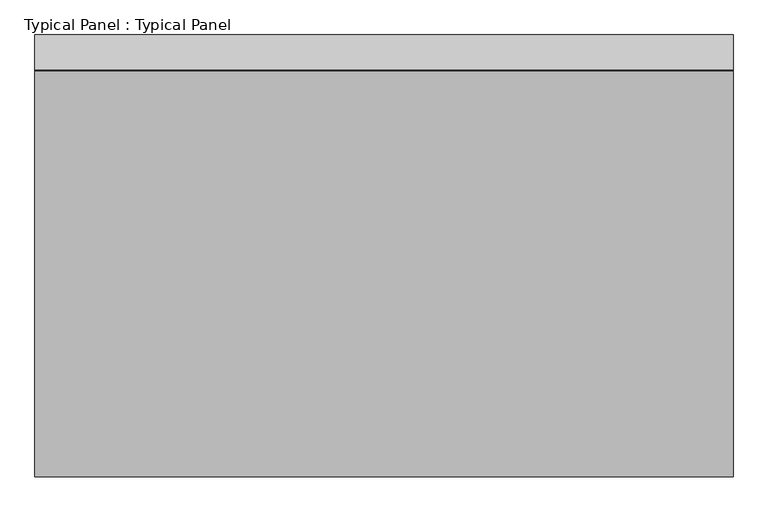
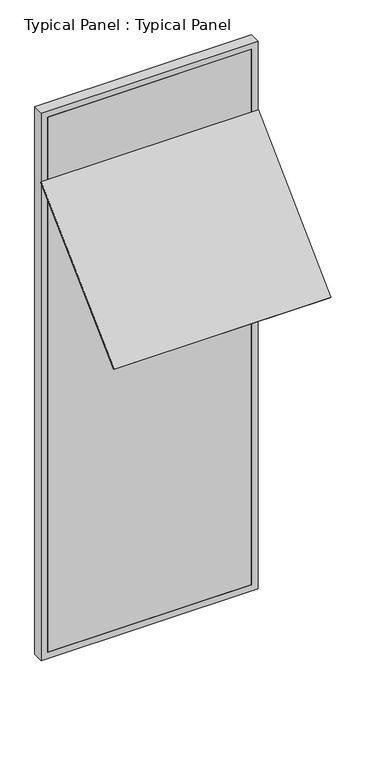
"""IFC4 building model written with IfcOpenShell, lengths in millimetres: plate geometry, Typical Panel : Typical Panel."""

from ifc_helpers import new_model, si_unit, frame, origin, place, context, project, spatial, polyline, outline, extrude, source, transform, mapped, element, save


def typical_panel_typical_panel_39513247(model_context):
    return source(origin(), model_context, "Body", "SweptSolid", [
        extrude(outline(polyline([(0.0, -1210.0), (0.0, 0.0), (1500.0, 0.0), (1500.0, -1210.0), (0.0, -1210.0)])), frame((750.0, -868.4545747, 2652.2699737), z_axis=(0.0, -0.6946583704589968, 0.7193398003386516), x_axis=(-1.0, 0.0, 0.0)), (0.0, 0.0, 1.0), 10.0),
        extrude(outline(polyline([(0.0, -750.0), (0.0, 750.0), (4000.0, 750.0), (4000.0, -750.0), (0.0, -750.0)]), holes=[polyline([(45.0, 705.0), (45.0, -705.0), (3955.0, -705.0), (3955.0, 705.0), (45.0, 705.0)])]), frame((0.0, -1.5797986, 0.0), z_axis=(0.0, 1.0, 0.0), x_axis=(0.0, 0.0, 1.0)), (0.0, 0.0, 1.0), 75.0),
        extrude(outline(polyline([(705.0, -1.5797986), (-705.0, -1.5797986), (-705.0, 13.4202014), (705.0, 13.4202014), (705.0, -1.5797986)])), frame((0.0, 0.0, 45.0), z_axis=(0.0, 0.0, 1.0), x_axis=(1.0, 0.0, 0.0)), (0.0, 0.0, 1.0), 3910.0),
    ])


if __name__ == "__main__":
    model = new_model("IFC4")
    model_context = context("Model", 3, world=origin())
    ifc_project = project(units=[si_unit("LENGTHUNIT", "METRE", prefix="MILLI")], contexts=[model_context])
    site = spatial("IfcSite", under=ifc_project)
    building = spatial("IfcBuilding", under=site)
    placement = place(None, origin())
    typical_panel_typical_panel_shape = typical_panel_typical_panel_39513247(model_context)
    element("IfcPlate", 1, ObjectType="Typical Panel : Typical Panel", at=placement, inside=building, context=model_context, shape_type="MappedRepresentation", body=[
        mapped(typical_panel_typical_panel_shape, transform((0.0, 0.0, 0.0), x_axis=(1.0, 0.0, 0.0), y_axis=(0.0, 1.0, 0.0), z_axis=(0.0, 0.0, 1.0))),
    ])
    save(model, "model.ifc")
